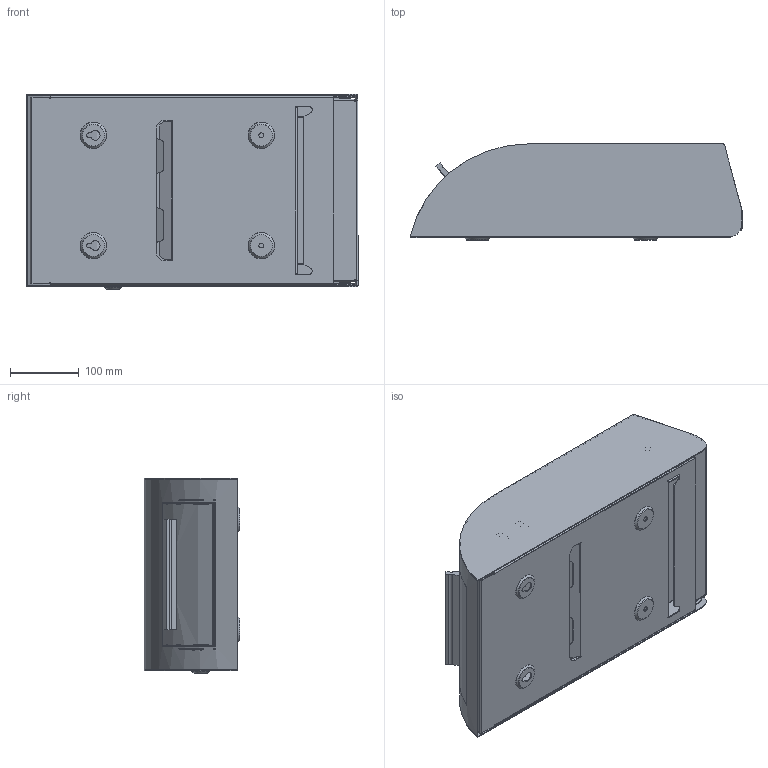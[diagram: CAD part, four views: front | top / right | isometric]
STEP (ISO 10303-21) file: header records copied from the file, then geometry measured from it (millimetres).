
FILE_DESCRIPTION((''),'2;1');
FILE_NAME('X:\Standardvarer\Affaldsbokse og hygiejneboxe\283 Dan Dryer Design hygiejnebox\Tegninger\Public 3D files\283 Dan Dryer Design hygiejnebox.stp','2012-03-27T13:03:48',('Dan Dryer'),(''),'Autodesk Inventor 2011','Autodesk Inventor 2011','');
FILE_SCHEMA(('AUTOMOTIVE_DESIGN { 1 0 10303 214 1 1 1 1 }'));
Length unit declared in the file: millimetre
Products named in the file (19): DD-101207-01 - slet; DD-101207-10; DD-101207-11; DD-101207-13; DD-101207-12; DD-101207-15; DD-101207-14; DD-101207-16; DD-291107-50; DD-101207-17; DD-101207-20; DD-101207-21; AJL-lås; DD-101207-40; DD-101207-41; DD-101207-42; DD-101207-65; DD-101207-70; DD-101207-71
Assembly tree (20 placements, depth 3):
  DD-101207-01 - slet
    DD-101207-10
      DD-101207-11
      DD-101207-13
      DD-101207-12
      DD-101207-15
      DD-101207-14
      DD-101207-16  x2
      DD-291107-50
      DD-101207-17
    DD-101207-20
      DD-101207-21
    AJL-lås
    DD-101207-40
      DD-101207-41  x2
      DD-101207-42
    DD-101207-65
    DD-101207-70
      DD-101207-71
Bounding box: 481.7 x 139.18 x 283.5 mm (x, y, z)
Volume: 1011746.1 mm3; surface area: 1482207.4 mm2
Topology: 16 solids, 16 shells, 540 faces, 1377 edges, 890 vertices
Faces by surface type: plane 294, cylinder 198, cone 20, torus 16, bspline 12
Full cylindrical faces by diameter (mm): 2.5 x1, 3.24 x2, 6.5 x4, 7 x2, 7.3 x1, 8.2 x4, 8.3 x1, 10 x2, 10.1 x2, 16 x1, 25 x1
Entity records: 16483 total; most frequent: CARTESIAN_POINT 3103, DIRECTION 2763, ORIENTED_EDGE 2558, EDGE_CURVE 1279, AXIS2_PLACEMENT_3D 964, VERTEX_POINT 860, VECTOR 835, LINE 835
